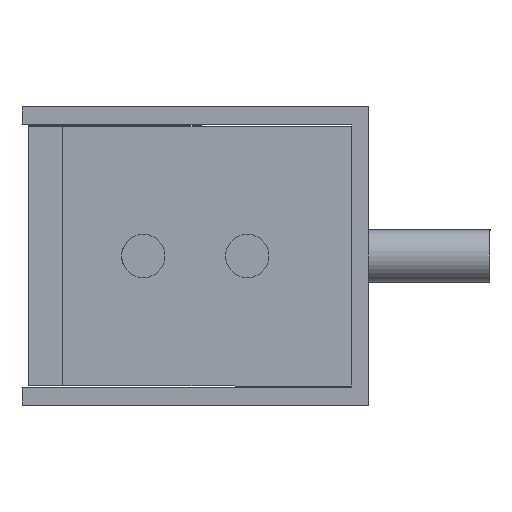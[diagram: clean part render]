
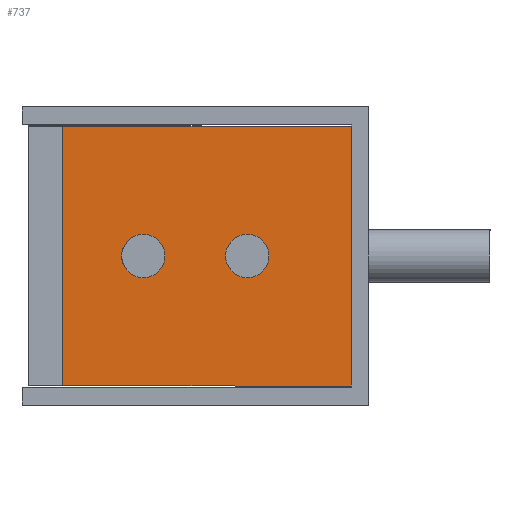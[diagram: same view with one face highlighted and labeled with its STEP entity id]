
A CAD part, left-side view. The second image highlights one B-rep face of the part: STEP entity #737.
In plain terms, the highlighted planar face has unit normal (-1, 0, 0).
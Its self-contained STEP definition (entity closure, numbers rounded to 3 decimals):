
#45=LINE('',#1271,#105);
#46=LINE('',#1272,#106);
#47=LINE('',#1274,#107);
#48=LINE('',#1275,#108);
#105=VECTOR('',#973,1000.);
#106=VECTOR('',#974,1000.);
#107=VECTOR('',#975,1000.);
#108=VECTOR('',#976,1000.);
#189=FACE_BOUND('',#259,.T.);
#190=FACE_BOUND('',#260,.T.);
#213=FACE_OUTER_BOUND('',#258,.T.);
#258=EDGE_LOOP('',(#569,#570,#571,#572));
#259=EDGE_LOOP('',(#573,#574));
#260=EDGE_LOOP('',(#575,#576));
#306=CIRCLE('',#819,1.25);
#307=CIRCLE('',#820,1.25);
#308=CIRCLE('',#822,1.25);
#309=CIRCLE('',#823,1.25);
#333=VERTEX_POINT('',#1101);
#358=VERTEX_POINT('',#1207);
#363=VERTEX_POINT('',#1221);
#364=VERTEX_POINT('',#1223);
#366=VERTEX_POINT('',#1270);
#367=VERTEX_POINT('',#1273);
#368=VERTEX_POINT('',#1276);
#369=VERTEX_POINT('',#1277);
#444=EDGE_CURVE('',#364,#363,#306,.T.);
#445=EDGE_CURVE('',#363,#364,#307,.T.);
#447=EDGE_CURVE('',#358,#366,#45,.T.);
#448=EDGE_CURVE('',#358,#333,#46,.T.);
#449=EDGE_CURVE('',#367,#333,#47,.T.);
#450=EDGE_CURVE('',#366,#367,#48,.T.);
#451=EDGE_CURVE('',#368,#369,#308,.T.);
#452=EDGE_CURVE('',#369,#368,#309,.T.);
#569=ORIENTED_EDGE('',*,*,#447,.F.);
#570=ORIENTED_EDGE('',*,*,#448,.T.);
#571=ORIENTED_EDGE('',*,*,#449,.F.);
#572=ORIENTED_EDGE('',*,*,#450,.F.);
#573=ORIENTED_EDGE('',*,*,#451,.T.);
#574=ORIENTED_EDGE('',*,*,#452,.T.);
#575=ORIENTED_EDGE('',*,*,#444,.T.);
#576=ORIENTED_EDGE('',*,*,#445,.T.);
#706=PLANE('',#821);
#737=ADVANCED_FACE('',(#213,#189,#190),#706,.F.);
#819=AXIS2_PLACEMENT_3D('',#1224,#967,#968);
#820=AXIS2_PLACEMENT_3D('',#1225,#969,#970);
#821=AXIS2_PLACEMENT_3D('',#1269,#971,#972);
#822=AXIS2_PLACEMENT_3D('',#1278,#977,#978);
#823=AXIS2_PLACEMENT_3D('',#1279,#979,#980);
#967=DIRECTION('center_axis',(1.,0.,0.));
#968=DIRECTION('ref_axis',(0.,0.,
1.));
#969=DIRECTION('center_axis',(1.,0.,0.));
#970=DIRECTION('ref_axis',(0.,0.,
1.));
#971=DIRECTION('center_axis',(1.,0.,0.));
#972=DIRECTION('ref_axis',(0.,0.,
1.));
#973=DIRECTION('',(0.,1.,0.));
#974=DIRECTION('',(0.,0.,1.));
#975=DIRECTION('',(0.,-1.,0.));
#976=DIRECTION('',(0.,0.,1.));
#977=DIRECTION('center_axis',(1.,0.,0.));
#978=DIRECTION('ref_axis',(0.,0.,
1.));
#979=DIRECTION('center_axis',(1.,0.,0.));
#980=DIRECTION('ref_axis',(0.,0.,
1.));
#1101=CARTESIAN_POINT('',(-191.,1.,16.1));
#1207=CARTESIAN_POINT('',(-191.,1.,1.1));
#1221=CARTESIAN_POINT('',(-191.,13.,7.35));
#1223=CARTESIAN_POINT('',(-191.,13.,9.85));
#1224=CARTESIAN_POINT('Origin',(-191.,13.,8.6));
#1225=CARTESIAN_POINT('Origin',(-191.,13.,8.6));
#1269=CARTESIAN_POINT('Origin',(-191.,17.65,1.1));
#1270=CARTESIAN_POINT('',(-191.,17.65,1.1));
#1271=CARTESIAN_POINT('',(-191.,1.,1.1));
#1272=CARTESIAN_POINT('',(-191.,1.,1.));
#1273=CARTESIAN_POINT('',(-191.,17.65,16.1));
#1274=CARTESIAN_POINT('',(-191.,1.,16.1));
#1275=CARTESIAN_POINT('',(-191.,17.65,1.1));
#1276=CARTESIAN_POINT('',(-191.,7.,9.85));
#1277=CARTESIAN_POINT('',(-191.,7.,7.35));
#1278=CARTESIAN_POINT('Origin',(-191.,7.,8.6));
#1279=CARTESIAN_POINT('Origin',(-191.,7.,8.6));
